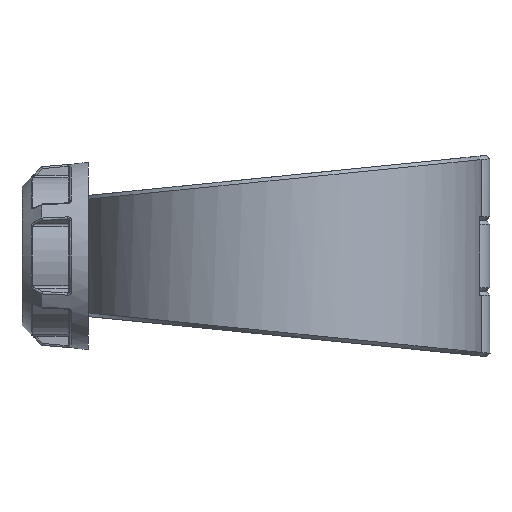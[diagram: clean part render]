
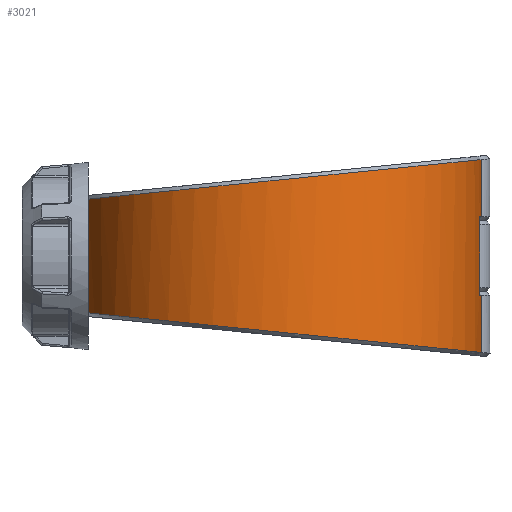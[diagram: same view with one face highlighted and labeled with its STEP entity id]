
A CAD part, left-side view. The second image highlights one B-rep face of the part: STEP entity #3021.
In plain terms, the highlighted cylindrical face has radius 110 mm (diameter 220 mm), a partial arc.
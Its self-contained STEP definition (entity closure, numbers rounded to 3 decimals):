
#212=FACE_OUTER_BOUND('',#416,.T.);
#416=EDGE_LOOP('',(#2055,#2056,#2057,#2058,#2059,#2060,#2061,#2062,#2063,
#2064,#2065,#2066));
#623=CIRCLE('',#3251,110.);
#626=CIRCLE('',#3256,110.);
#805=B_SPLINE_CURVE_WITH_KNOTS('',3,(#4512,#4513,#4514,#4515),
 .UNSPECIFIED.,.F.,.F.,(4,4),(-0.001,0.),.UNSPECIFIED.);
#806=B_SPLINE_CURVE_WITH_KNOTS('',3,(#4517,#4518,#4519,#4520),
 .UNSPECIFIED.,.F.,.F.,(4,4),(-3.053,-3.053),
 .UNSPECIFIED.);
#807=B_SPLINE_CURVE_WITH_KNOTS('',3,(#4521,#4522,#4523,#4524,#4525,#4526,
#4527,#4528,#4529,#4530),.UNSPECIFIED.,.F.,.F.,(4,1,1,1,1,1,1,4),(0.317,
0.657,1.057,1.458,1.859,2.26,
2.661,3.053),.UNSPECIFIED.);
#808=B_SPLINE_CURVE_WITH_KNOTS('',3,(#4532,#4533,#4534,#4535,#4536,#4537,
#4538,#4539,#4540,#4541),.UNSPECIFIED.,.F.,.F.,(4,1,1,1,1,1,1,4),(-3.053,
-2.661,-2.26,-1.859,-1.458,
-1.057,-0.657,-0.317),.UNSPECIFIED.);
#809=B_SPLINE_CURVE_WITH_KNOTS('',3,(#4543,#4544,#4545,#4546),
 .UNSPECIFIED.,.F.,.F.,(4,4),(3.053,3.053),
 .UNSPECIFIED.);
#810=B_SPLINE_CURVE_WITH_KNOTS('',3,(#4548,#4549,#4550,#4551),
 .UNSPECIFIED.,.F.,.F.,(4,4),(-0.354,-0.353),
 .UNSPECIFIED.);
#972=LINE('',#4391,#1093);
#979=LINE('',#4446,#1100);
#985=LINE('',#4510,#1106);
#986=LINE('',#4552,#1107);
#1093=VECTOR('',#3575,10.);
#1100=VECTOR('',#3592,10.);
#1106=VECTOR('',#3638,10.);
#1107=VECTOR('',#3639,10.);
#1216=VERTEX_POINT('',#4376);
#1217=VERTEX_POINT('',#4390);
#1229=VERTEX_POINT('',#4440);
#1230=VERTEX_POINT('',#4445);
#1236=VERTEX_POINT('',#4466);
#1239=VERTEX_POINT('',#4487);
#1243=VERTEX_POINT('',#4509);
#1244=VERTEX_POINT('',#4511);
#1245=VERTEX_POINT('',#4516);
#1246=VERTEX_POINT('',#4531);
#1247=VERTEX_POINT('',#4542);
#1248=VERTEX_POINT('',#4547);
#1510=EDGE_CURVE('',#1216,#1217,#972,.T.);
#1524=EDGE_CURVE('',#1229,#1230,#979,.T.);
#1537=EDGE_CURVE('',#1236,#1229,#623,.T.);
#1542=EDGE_CURVE('',#1230,#1239,#626,.T.);
#1548=EDGE_CURVE('',#1243,#1236,#985,.T.);
#1549=EDGE_CURVE('',#1244,#1243,#805,.T.);
#1550=EDGE_CURVE('',#1244,#1245,#806,.T.);
#1551=EDGE_CURVE('',#1217,#1245,#807,.T.);
#1552=EDGE_CURVE('',#1246,#1216,#808,.T.);
#1553=EDGE_CURVE('',#1246,#1247,#809,.T.);
#1554=EDGE_CURVE('',#1248,#1247,#810,.T.);
#1555=EDGE_CURVE('',#1239,#1248,#986,.T.);
#2055=ORIENTED_EDGE('',*,*,#1542,.F.);
#2056=ORIENTED_EDGE('',*,*,#1524,.F.);
#2057=ORIENTED_EDGE('',*,*,#1537,.F.);
#2058=ORIENTED_EDGE('',*,*,#1548,.F.);
#2059=ORIENTED_EDGE('',*,*,#1549,.F.);
#2060=ORIENTED_EDGE('',*,*,#1550,.T.);
#2061=ORIENTED_EDGE('',*,*,#1551,.F.);
#2062=ORIENTED_EDGE('',*,*,#1510,.F.);
#2063=ORIENTED_EDGE('',*,*,#1552,.F.);
#2064=ORIENTED_EDGE('',*,*,#1553,.T.);
#2065=ORIENTED_EDGE('',*,*,#1554,.F.);
#2066=ORIENTED_EDGE('',*,*,#1555,.F.);
#2962=CYLINDRICAL_SURFACE('',#3261,110.);
#3021=ADVANCED_FACE('',(#212),#2962,.T.);
#3251=AXIS2_PLACEMENT_3D('',#4482,#3614,#3615);
#3256=AXIS2_PLACEMENT_3D('',#4496,#3624,#3625);
#3261=AXIS2_PLACEMENT_3D('',#4508,#3636,#3637);
#3575=DIRECTION('',(0.,0.,1.));
#3592=DIRECTION('',(0.,0.,-1.));
#3614=DIRECTION('center_axis',(0.,0.,-1.));
#3615=DIRECTION('ref_axis',(0.312,-0.95,0.));
#3624=DIRECTION('center_axis',(0.,0.,1.));
#3625=DIRECTION('ref_axis',(0.312,-0.95,0.));
#3636=DIRECTION('center_axis',(0.,0.,1.));
#3637=DIRECTION('ref_axis',(-0.312,0.95,0.));
#3638=DIRECTION('',(0.,0.,-1.));
#3639=DIRECTION('',(0.,0.,-1.));
#4376=CARTESIAN_POINT('',(-34.347,104.5,-30.999));
#4390=CARTESIAN_POINT('',(-34.347,104.5,30.999));
#4391=CARTESIAN_POINT('',(-34.347,104.5,0.));
#4440=CARTESIAN_POINT('',(-15.981,-108.833,21.25));
#4445=CARTESIAN_POINT('',(-15.981,-108.833,-21.25));
#4446=CARTESIAN_POINT('',(-15.981,-108.833,0.));
#4466=CARTESIAN_POINT('',(-9.723,-109.569,21.25));
#4482=CARTESIAN_POINT('Origin',(0.,0.,21.25));
#4487=CARTESIAN_POINT('',(-9.723,-109.569,-21.25));
#4496=CARTESIAN_POINT('Origin',(0.,0.,-21.25));
#4508=CARTESIAN_POINT('Origin',(0.,0.,0.));
#4509=CARTESIAN_POINT('',(-9.723,-109.569,52.508));
#4510=CARTESIAN_POINT('',(-9.723,-109.569,0.));
#4511=CARTESIAN_POINT('',(-9.714,-109.57,52.515));
#4512=CARTESIAN_POINT('Ctrl Pts',(-9.714,-109.57,52.515));
#4513=CARTESIAN_POINT('Ctrl Pts',(-9.717,-109.57,52.512));
#4514=CARTESIAN_POINT('Ctrl Pts',(-9.72,-109.57,52.51));
#4515=CARTESIAN_POINT('Ctrl Pts',(-9.723,-109.569,52.508));
#4516=CARTESIAN_POINT('',(-9.723,-109.569,52.514));
#4517=CARTESIAN_POINT('Ctrl Pts',(-9.714,-109.57,52.515));
#4518=CARTESIAN_POINT('Ctrl Pts',(-9.717,-109.57,52.514));
#4519=CARTESIAN_POINT('Ctrl Pts',(-9.72,-109.57,52.514));
#4520=CARTESIAN_POINT('Ctrl Pts',(-9.723,-109.569,52.514));
#4521=CARTESIAN_POINT('Ctrl Pts',(-34.347,104.498,30.999));
#4522=CARTESIAN_POINT('Ctrl Pts',(-46.192,100.598,31.39));
#4523=CARTESIAN_POINT('Ctrl Pts',(-70.572,87.689,32.686));
#4524=CARTESIAN_POINT('Ctrl Pts',(-98.524,55.339,35.933));
#4525=CARTESIAN_POINT('Ctrl Pts',(-112.294,12.479,40.238));
#4526=CARTESIAN_POINT('Ctrl Pts',(-108.27,-32.323,44.741));
#4527=CARTESIAN_POINT('Ctrl Pts',(-87.091,-71.975,48.73));
#4528=CARTESIAN_POINT('Ctrl Pts',(-52.411,-100.01,51.552));
#4529=CARTESIAN_POINT('Ctrl Pts',(-24.016,-108.3,52.387));
#4530=CARTESIAN_POINT('Ctrl Pts',(-9.723,-109.569,52.514));
#4531=CARTESIAN_POINT('',(-9.723,-109.569,-52.514));
#4532=CARTESIAN_POINT('Ctrl Pts',(-9.723,-109.569,-52.514));
#4533=CARTESIAN_POINT('Ctrl Pts',(-24.016,-108.3,-52.387));
#4534=CARTESIAN_POINT('Ctrl Pts',(-52.41,-100.011,-51.552));
#4535=CARTESIAN_POINT('Ctrl Pts',(-87.096,-71.977,-48.73));
#4536=CARTESIAN_POINT('Ctrl Pts',(-108.259,-32.321,-44.741));
#4537=CARTESIAN_POINT('Ctrl Pts',(-112.306,12.48,-40.238));
#4538=CARTESIAN_POINT('Ctrl Pts',(-98.513,55.334,-35.933));
#4539=CARTESIAN_POINT('Ctrl Pts',(-70.577,87.693,-32.685));
#4540=CARTESIAN_POINT('Ctrl Pts',(-46.193,100.599,-31.39));
#4541=CARTESIAN_POINT('Ctrl Pts',(-34.347,104.498,-30.999));
#4542=CARTESIAN_POINT('',(-9.714,-109.57,-52.515));
#4543=CARTESIAN_POINT('Ctrl Pts',(-9.723,-109.569,-52.514));
#4544=CARTESIAN_POINT('Ctrl Pts',(-9.72,-109.57,-52.514));
#4545=CARTESIAN_POINT('Ctrl Pts',(-9.717,-109.57,-52.514));
#4546=CARTESIAN_POINT('Ctrl Pts',(-9.714,-109.57,-52.515));
#4547=CARTESIAN_POINT('',(-9.723,-109.569,-52.508));
#4548=CARTESIAN_POINT('Ctrl Pts',(-9.722,-109.569,-52.508));
#4549=CARTESIAN_POINT('Ctrl Pts',(-9.719,-109.569,-52.51));
#4550=CARTESIAN_POINT('Ctrl Pts',(-9.717,-109.569,-52.512));
#4551=CARTESIAN_POINT('Ctrl Pts',(-9.714,-109.57,-52.514));
#4552=CARTESIAN_POINT('',(-9.723,-109.569,0.));
